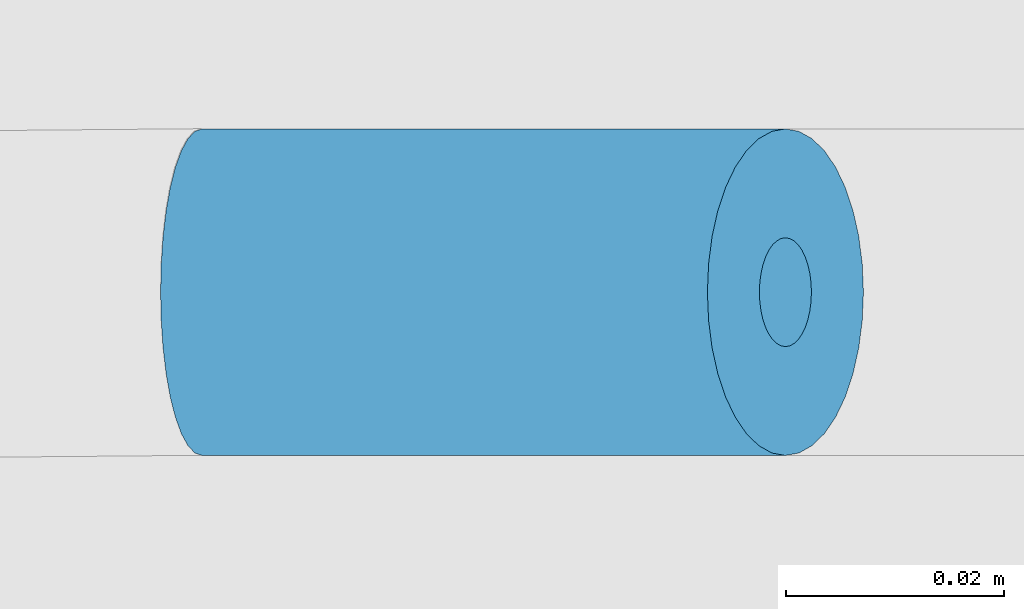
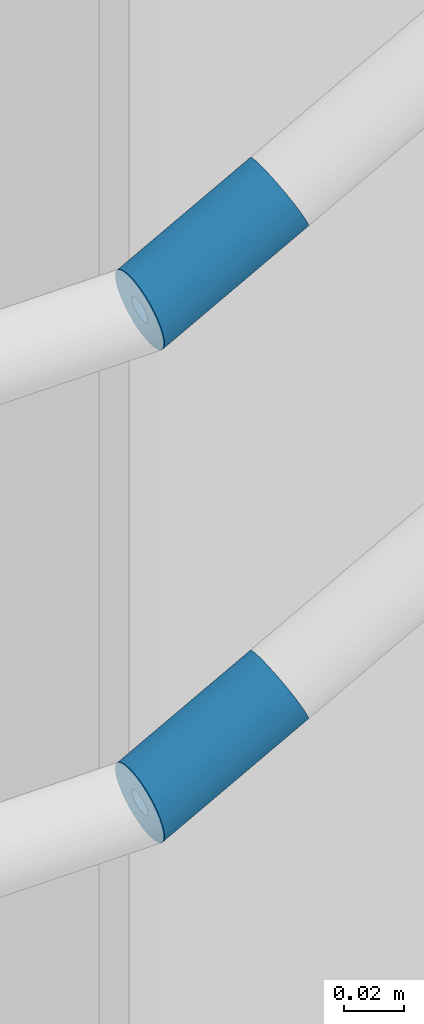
# One storey, part 230 of 301: 2 building element parts, 1 element without a shape of its own.
"""IFC2X3 building model written with IfcOpenShell, lengths in millimetres."""

from ifc_helpers import new_model, entity, si_unit, converted_unit, derived_unit, money_unit, direction, frame, origin_with_axes, place, context, subcontext, project, spatial, faceted_brep, material, type_object, element, aggregate, save


model = new_model("IFC2X3")

# Units and contexts
model_context = context("Model", 3, precision=0.01, world=origin_with_axes(), true_north=direction((0.0, 1.0)))
body_context = subcontext(model_context, "Body", "Model", "MODEL_VIEW")
ifc_project = project(units=[si_unit("LENGTHUNIT", "METRE", prefix="MILLI"), si_unit("AREAUNIT", "SQUARE_METRE"), si_unit("VOLUMEUNIT", "CUBIC_METRE"), converted_unit("PLANEANGLEUNIT", "DEGREE", entity("IfcPlaneAngleMeasure", 0.0174532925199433), si_unit("PLANEANGLEUNIT", "RADIAN"), dimensions=[0, 0, 0, 0, 0, 0, 0]), money_unit("EUR"), converted_unit("TIMEUNIT", "Year", entity("IfcTimeMeasure", 31557600.0), si_unit("TIMEUNIT", "SECOND"), dimensions=[0, 0, 1, 0, 0, 0, 0]), si_unit("MASSUNIT", "GRAM", prefix="KILO"), si_unit("THERMODYNAMICTEMPERATUREUNIT", "DEGREE_CELSIUS"), si_unit("LUMINOUSINTENSITYUNIT", "LUMEN"), si_unit("ENERGYUNIT", "JOULE", prefix="MEGA"), derived_unit("THERMALCONDUCTANCEUNIT", [(si_unit("POWERUNIT", "WATT"), 1), (si_unit("LENGTHUNIT", "METRE"), -1), (si_unit("THERMODYNAMICTEMPERATUREUNIT", "KELVIN"), -1)]), derived_unit("SPECIFICHEATCAPACITYUNIT", [(si_unit("ENERGYUNIT", "JOULE"), 1), (si_unit("MASSUNIT", "GRAM", prefix="KILO"), -1), (si_unit("THERMODYNAMICTEMPERATUREUNIT", "KELVIN"), -1)]), derived_unit("MASSDENSITYUNIT", [(si_unit("MASSUNIT", "GRAM", prefix="KILO"), 1), (si_unit("VOLUMEUNIT", "CUBIC_METRE"), -1)])], contexts=[model_context])

# Site, building, storey
site_placement = place(None, frame((0.0, 0.0, 8650.0), z_axis=(0.0, 0.0, 1.0), x_axis=(1.0, 0.0, 0.0)))
site = spatial("IfcSite", under=ifc_project, at=site_placement, Name="43301:001:0844", CompositionType="ELEMENT")
building_placement = place(site_placement, origin_with_axes())
building = spatial("IfcBuilding", under=site, at=building_placement, Name="Kuressaare Ametikooli tuulikute mehaanikute õppekorpus", CompositionType="ELEMENT")
storey_placement = place(building_placement, origin_with_axes())
storey = spatial("IfcBuildingStorey", under=building, at=storey_placement, Name="1.korrus", CompositionType="ELEMENT", Elevation=0.0)

# Railing, building element parts
railing_type = type_object("IfcRailingType", Name="Railing Type", PredefinedType="NOTDEFINED")
railing_placement = place(storey_placement, frame((107882.9493746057, 28359.57374875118, 157.6923606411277), z_axis=(0.0, 0.0, 1.0), x_axis=(1.0, 0.0, 0.0)))
railing = element("IfcRailing", 1, at=railing_placement, inside=storey, type_object=railing_type, Name="Piire", PredefinedType="NOTDEFINED")
ifc_material = material(Name="Metall - Teras - Roostevaba")
building_element_part_1_placement = place(railing_placement, origin_with_axes())
building_element_part_1 = element("IfcBuildingElementPart", 2, at=building_element_part_1_placement, material=ifc_material, Name="Metall - Teras - Roostevaba", context=body_context, shape_type="Brep", body=[
    faceted_brep([(3721.130413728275, -54.92403876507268, 2607.204034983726), (3721.545180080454, -55.00000000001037, 2606.441269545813), (3667.967820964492, -55.00000000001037, 2577.30769230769), (3667.747026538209, -54.92403876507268, 2578.175933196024), (3720.300881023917, -64.7721162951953, 2608.729565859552), (3721.545180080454, -65.00000000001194, 2606.441269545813), (3722.789479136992, -64.7721162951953, 2604.152973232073), (3723.995970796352, -64.09538931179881, 2601.934205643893), (3725.127996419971, -62.99038105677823, 2599.852382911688), (3726.151159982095, -61.49066664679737, 2597.970760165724), (3727.034373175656, -59.64181414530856, 2596.346509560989), (3727.750800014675, -57.50000000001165, 2595.028983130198), (3728.278672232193, -55.13030214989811, 2594.05821324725), (3728.601950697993, -52.60472266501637, 2593.463696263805), (3728.710812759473, -50.00000000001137, 2593.263496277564), (3728.601950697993, -47.39527733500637, 2593.463696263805), (3728.278672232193, -44.86969785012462, 2594.05821324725), (3727.750800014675, -42.50000000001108, 2595.028983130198), (3727.034373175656, -40.35818585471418, 2596.346509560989), (3726.151159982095, -38.50933335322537, 2597.970760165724), (3725.127996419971, -37.0096189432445, 2599.852382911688), (3723.995970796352, -35.90461068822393, 2601.934205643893), (3722.789479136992, -35.22788370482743, 2604.152973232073), (3721.545180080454, -35.0000000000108, 2606.441269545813), (3720.300881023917, -35.22788370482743, 2608.729565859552), (3719.094389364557, -35.90461068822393, 2610.948333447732), (3717.962363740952, -37.0096189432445, 2613.030156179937), (3716.939200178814, -38.50933335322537, 2614.911778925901), (3716.055986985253, -40.35818585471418, 2616.536029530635), (3715.339560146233, -42.50000000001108, 2617.853555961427), (3714.811687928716, -44.86969785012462, 2618.824325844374), (3714.488409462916, -47.39527733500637, 2619.41884282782), (3714.379547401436, -50.00000000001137, 2619.61904281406), (3714.488409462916, -52.60472266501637, 2619.41884282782), (3714.811687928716, -55.13030214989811, 2618.824325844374), (3715.339560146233, -57.50000000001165, 2617.853555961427), (3716.055986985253, -59.64181414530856, 2616.536029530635), (3716.939200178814, -61.49066664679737, 2614.911778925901), (3717.962363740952, -62.99038105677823, 2613.030156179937), (3719.094389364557, -64.09538931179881, 2610.948333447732), (3721.959946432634, -54.92403876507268, 2605.6785041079), (3720.728249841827, -54.69846310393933, 2607.943624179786), (3720.350907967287, -54.33012701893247, 2608.637565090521), (3720.00985344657, -53.83022221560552, 2609.264772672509), (3719.715449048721, -53.21393804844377, 2609.806189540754), (3719.476640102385, -52.50000000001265, 2610.245365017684), (3719.300682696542, -51.71010071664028, 2610.568954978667), (3719.192923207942, -50.86824088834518, 2610.767127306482), (3719.156635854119, -50.00000000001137, 2610.833860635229), (3719.192923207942, -49.13175911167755, 2610.767127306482), (3719.300682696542, -48.28989928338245, 2610.568954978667), (3719.476640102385, -47.50000000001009, 2610.245365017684), (3719.715449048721, -46.78606195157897, 2609.806189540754), (3720.00985344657, -46.16977778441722, 2609.264772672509), (3720.350907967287, -45.66987298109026, 2608.637565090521), (3720.728249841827, -45.30153689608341, 2607.943624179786), (3721.130413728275, -45.07596123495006, 2607.204034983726), (3721.545180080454, -45.00000000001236, 2606.441269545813), (3721.959946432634, -45.07596123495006, 2605.6785041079), (3722.362110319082, -45.30153689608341, 2604.938914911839), (3722.739452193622, -45.66987298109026, 2604.244974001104), (3723.080506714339, -46.16977778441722, 2603.617766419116), (3723.374911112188, -46.78606195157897, 2603.076349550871), (3723.613720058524, -47.50000000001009, 2602.637174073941), (3723.789677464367, -48.28989928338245, 2602.313584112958), (3723.897436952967, -49.13175911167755, 2602.115411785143), (3723.933724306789, -50.00000000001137, 2602.048678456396), (3723.897436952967, -50.86824088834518, 2602.115411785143), (3723.789677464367, -51.71010071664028, 2602.313584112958), (3723.613720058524, -52.50000000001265, 2602.637174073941), (3723.374911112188, -53.21393804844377, 2603.076349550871), (3723.080506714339, -53.83022221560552, 2603.617766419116), (3722.739452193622, -54.33012701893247, 2604.244974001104), (3722.362110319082, -54.69846310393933, 2604.938914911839), (3668.188615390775, -54.92403876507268, 2576.439451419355), (3666.060564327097, -37.0096189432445, 2584.80769230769), (3666.663180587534, -35.90461068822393, 2582.437994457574), (3667.305437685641, -35.22788370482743, 2579.912414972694), (3667.967820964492, -35.0000000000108, 2577.30769230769), (3668.630204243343, -35.22788370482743, 2574.702969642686), (3669.27246134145, -35.90461068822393, 2572.177390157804), (3669.875077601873, -37.0096189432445, 2569.80769230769), (3670.419742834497, -38.50933335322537, 2567.665878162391), (3670.889907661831, -40.35818585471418, 2565.817025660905), (3671.271286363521, -42.50000000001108, 2564.317311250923), (3671.552290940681, -44.86969785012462, 2563.212302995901), (3671.724383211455, -47.39527733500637, 2562.535576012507), (3671.782334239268, -50.00000000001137, 2562.30769230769), (3671.724383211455, -52.60472266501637, 2562.535576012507), (3671.552290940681, -55.13030214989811, 2563.212302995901), (3671.271286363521, -57.50000000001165, 2564.317311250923), (3670.889907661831, -59.64181414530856, 2565.817025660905), (3670.419742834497, -61.49066664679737, 2567.665878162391), (3669.875077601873, -62.99038105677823, 2569.80769230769), (3669.27246134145, -64.09538931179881, 2572.177390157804), (3668.630204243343, -64.7721162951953, 2574.702969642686), (3667.967820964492, -65.00000000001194, 2577.30769230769), (3667.305437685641, -64.7721162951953, 2579.912414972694), (3666.663180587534, -64.09538931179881, 2582.437994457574), (3666.060564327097, -62.99038105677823, 2584.80769230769), (3665.515899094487, -61.49066664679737, 2586.949506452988), (3665.045734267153, -59.64181414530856, 2588.798358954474), (3664.664355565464, -57.50000000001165, 2590.298073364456), (3664.383350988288, -55.13030214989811, 2591.403081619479), (3664.211258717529, -52.60472266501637, 2592.079808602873), (3664.153307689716, -50.00000000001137, 2592.30769230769), (3664.211258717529, -47.39527733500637, 2592.079808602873), (3664.383350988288, -44.86969785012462, 2591.403081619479), (3664.664355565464, -42.50000000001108, 2590.298073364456), (3665.045734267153, -40.35818585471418, 2588.798358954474), (3665.515899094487, -38.50933335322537, 2586.949506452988), (3668.603573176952, -45.66987298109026, 2574.80769230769), (3668.402701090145, -45.30153689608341, 2575.597591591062), (3668.188615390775, -45.07596123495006, 2576.439451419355), (3667.967820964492, -45.00000000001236, 2577.30769230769), (3667.747026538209, -45.07596123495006, 2578.175933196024), (3667.532940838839, -45.30153689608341, 2579.017793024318), (3667.332068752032, -45.66987298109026, 2579.80769230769), (3667.150513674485, -46.16977778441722, 2580.521630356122), (3666.993792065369, -46.78606195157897, 2581.137914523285), (3666.866665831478, -47.50000000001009, 2581.637819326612), (3666.772997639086, -48.28989928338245, 2582.006155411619), (3666.715633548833, -49.13175911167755, 2582.231731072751), (3666.696316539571, -50.00000000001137, 2582.30769230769), (3666.715633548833, -50.86824088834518, 2582.231731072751), (3666.772997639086, -51.71010071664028, 2582.006155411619), (3666.866665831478, -52.50000000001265, 2581.637819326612), (3666.993792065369, -53.21393804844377, 2581.137914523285), (3667.150513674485, -53.83022221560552, 2580.521630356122), (3667.332068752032, -54.33012701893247, 2579.80769230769), (3667.532940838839, -54.69846310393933, 2579.017793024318), (3668.402701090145, -54.69846310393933, 2575.597591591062), (3668.603573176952, -54.33012701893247, 2574.80769230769), (3668.785128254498, -53.83022221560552, 2574.093754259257), (3668.9418498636, -53.21393804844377, 2573.477470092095), (3669.068976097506, -52.50000000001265, 2572.977565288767), (3669.162644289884, -51.71010071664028, 2572.60922920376), (3669.220008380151, -50.86824088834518, 2572.383653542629), (3669.239325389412, -50.00000000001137, 2572.30769230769), (3669.220008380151, -49.13175911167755, 2572.383653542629), (3669.162644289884, -48.28989928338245, 2572.60922920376), (3669.068976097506, -47.50000000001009, 2572.977565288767), (3668.9418498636, -46.78606195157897, 2573.477470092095), (3668.785128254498, -46.16977778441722, 2574.093754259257)], [[[0, 1, 2, 3]], [[4, 5, 6, 7, 8, 9, 10, 11, 12, 13, 14, 15, 16, 17, 18, 19, 20, 21, 22, 23, 24, 25, 26, 27, 28, 29, 30, 31, 32, 33, 34, 35, 36, 37, 38, 39], [40, 1, 0, 41, 42, 43, 44, 45, 46, 47, 48, 49, 50, 51, 52, 53, 54, 55, 56, 57, 58, 59, 60, 61, 62, 63, 64, 65, 66, 67, 68, 69, 70, 71, 72, 73]], [[1, 40, 74, 2]], [[75, 76, 77, 78, 79, 80, 81, 82, 83, 84, 85, 86, 87, 88, 89, 90, 91, 92, 93, 94, 95, 96, 97, 98, 99, 100, 101, 102, 103, 104, 105, 106, 107, 108, 109, 110], [111, 112, 113, 114, 115, 116, 117, 118, 119, 120, 121, 122, 123, 124, 125, 126, 127, 128, 129, 130, 3, 2, 74, 131, 132, 133, 134, 135, 136, 137, 138, 139, 140, 141, 142, 143]], [[41, 0, 3, 130]], [[5, 4, 97, 96]], [[6, 5, 96, 95]], [[7, 6, 95, 94]], [[8, 7, 94, 93]], [[9, 8, 93, 92]], [[10, 9, 92, 91]], [[11, 10, 91, 90]], [[12, 11, 90, 89]], [[13, 12, 89, 88]], [[14, 13, 88, 87]], [[15, 14, 87, 86]], [[16, 15, 86, 85]], [[17, 16, 85, 84]], [[18, 17, 84, 83]], [[19, 18, 83, 82]], [[20, 19, 82, 81]], [[21, 20, 81, 80]], [[22, 21, 80, 79]], [[23, 22, 79, 78]], [[24, 23, 78, 77]], [[25, 24, 77, 76]], [[26, 25, 76, 75]], [[27, 26, 75, 110]], [[28, 27, 110, 109]], [[29, 28, 109, 108]], [[30, 29, 108, 107]], [[31, 30, 107, 106]], [[32, 31, 106, 105]], [[33, 32, 105, 104]], [[34, 33, 104, 103]], [[35, 34, 103, 102]], [[36, 35, 102, 101]], [[37, 36, 101, 100]], [[38, 37, 100, 99]], [[39, 38, 99, 98]], [[4, 39, 98, 97]], [[42, 41, 130, 129]], [[43, 42, 129, 128]], [[44, 43, 128, 127]], [[45, 44, 127, 126]], [[46, 45, 126, 125]], [[47, 46, 125, 124]], [[48, 47, 124, 123]], [[49, 48, 123, 122]], [[50, 49, 122, 121]], [[51, 50, 121, 120]], [[52, 51, 120, 119]], [[53, 52, 119, 118]], [[54, 53, 118, 117]], [[55, 54, 117, 116]], [[56, 55, 116, 115]], [[57, 56, 115, 114]], [[58, 57, 114, 113]], [[59, 58, 113, 112]], [[60, 59, 112, 111]], [[61, 60, 111, 143]], [[62, 61, 143, 142]], [[63, 62, 142, 141]], [[64, 63, 141, 140]], [[65, 64, 140, 139]], [[66, 65, 139, 138]], [[67, 66, 138, 137]], [[68, 67, 137, 136]], [[69, 68, 136, 135]], [[70, 69, 135, 134]], [[71, 70, 134, 133]], [[72, 71, 133, 132]], [[73, 72, 132, 131]], [[40, 73, 131, 74]]]),
])
building_element_part_2_placement = place(railing_placement, origin_with_axes())
building_element_part_2 = element("IfcBuildingElementPart", 3, at=building_element_part_2_placement, material=ifc_material, Name="Metall - Teras - Roostevaba", context=body_context, shape_type="Brep", body=[
    faceted_brep([(3721.130413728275, -54.92403876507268, 2807.204034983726), (3721.545180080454, -55.00000000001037, 2806.441269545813), (3667.967820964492, -55.00000000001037, 2777.30769230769), (3667.747026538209, -54.92403876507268, 2778.175933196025), (3720.300881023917, -64.7721162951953, 2808.729565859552), (3721.545180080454, -65.00000000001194, 2806.441269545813), (3722.789479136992, -64.7721162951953, 2804.152973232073), (3723.995970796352, -64.09538931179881, 2801.934205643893), (3725.127996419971, -62.99038105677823, 2799.852382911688), (3726.151159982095, -61.49066664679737, 2797.970760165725), (3727.034373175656, -59.64181414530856, 2796.346509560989), (3727.750800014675, -57.50000000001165, 2795.028983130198), (3728.278672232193, -55.13030214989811, 2794.05821324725), (3728.601950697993, -52.60472266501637, 2793.463696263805), (3728.710812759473, -50.00000000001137, 2793.263496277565), (3728.601950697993, -47.39527733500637, 2793.463696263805), (3728.278672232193, -44.86969785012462, 2794.05821324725), (3727.750800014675, -42.50000000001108, 2795.028983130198), (3727.034373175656, -40.35818585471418, 2796.346509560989), (3726.151159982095, -38.50933335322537, 2797.970760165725), (3725.127996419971, -37.0096189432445, 2799.852382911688), (3723.995970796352, -35.90461068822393, 2801.934205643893), (3722.789479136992, -35.22788370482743, 2804.152973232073), (3721.545180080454, -35.0000000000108, 2806.441269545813), (3720.300881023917, -35.22788370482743, 2808.729565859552), (3719.094389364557, -35.90461068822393, 2810.948333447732), (3717.962363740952, -37.0096189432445, 2813.030156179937), (3716.939200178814, -38.50933335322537, 2814.911778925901), (3716.055986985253, -40.35818585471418, 2816.536029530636), (3715.339560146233, -42.50000000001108, 2817.853555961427), (3714.811687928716, -44.86969785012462, 2818.824325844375), (3714.488409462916, -47.39527733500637, 2819.41884282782), (3714.379547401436, -50.00000000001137, 2819.619042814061), (3714.488409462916, -52.60472266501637, 2819.41884282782), (3714.811687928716, -55.13030214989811, 2818.824325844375), (3715.339560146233, -57.50000000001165, 2817.853555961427), (3716.055986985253, -59.64181414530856, 2816.536029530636), (3716.939200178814, -61.49066664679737, 2814.911778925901), (3717.962363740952, -62.99038105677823, 2813.030156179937), (3719.094389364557, -64.09538931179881, 2810.948333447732), (3721.959946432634, -54.92403876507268, 2805.6785041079), (3720.728249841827, -54.69846310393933, 2807.943624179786), (3720.350907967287, -54.33012701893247, 2808.637565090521), (3720.00985344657, -53.83022221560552, 2809.264772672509), (3719.715449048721, -53.21393804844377, 2809.806189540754), (3719.476640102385, -52.50000000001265, 2810.245365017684), (3719.300682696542, -51.71010071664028, 2810.568954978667), (3719.192923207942, -50.86824088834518, 2810.767127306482), (3719.156635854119, -50.00000000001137, 2810.833860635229), (3719.192923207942, -49.13175911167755, 2810.767127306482), (3719.300682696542, -48.28989928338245, 2810.568954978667), (3719.476640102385, -47.50000000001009, 2810.245365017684), (3719.715449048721, -46.78606195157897, 2809.806189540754), (3720.00985344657, -46.16977778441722, 2809.264772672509), (3720.350907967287, -45.66987298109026, 2808.637565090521), (3720.728249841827, -45.30153689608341, 2807.943624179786), (3721.130413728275, -45.07596123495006, 2807.204034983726), (3721.545180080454, -45.00000000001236, 2806.441269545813), (3721.959946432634, -45.07596123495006, 2805.6785041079), (3722.362110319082, -45.30153689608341, 2804.93891491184), (3722.739452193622, -45.66987298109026, 2804.244974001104), (3723.080506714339, -46.16977778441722, 2803.617766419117), (3723.374911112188, -46.78606195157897, 2803.076349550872), (3723.613720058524, -47.50000000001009, 2802.637174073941), (3723.789677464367, -48.28989928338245, 2802.313584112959), (3723.897436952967, -49.13175911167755, 2802.115411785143), (3723.933724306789, -50.00000000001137, 2802.048678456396), (3723.897436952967, -50.86824088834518, 2802.115411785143), (3723.789677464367, -51.71010071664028, 2802.313584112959), (3723.613720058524, -52.50000000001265, 2802.637174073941), (3723.374911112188, -53.21393804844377, 2803.076349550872), (3723.080506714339, -53.83022221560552, 2803.617766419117), (3722.739452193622, -54.33012701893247, 2804.244974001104), (3722.362110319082, -54.69846310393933, 2804.93891491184), (3668.188615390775, -54.92403876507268, 2776.439451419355), (3666.060564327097, -37.0096189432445, 2784.80769230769), (3666.663180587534, -35.90461068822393, 2782.437994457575), (3667.305437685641, -35.22788370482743, 2779.912414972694), (3667.967820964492, -35.0000000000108, 2777.30769230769), (3668.630204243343, -35.22788370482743, 2774.702969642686), (3669.27246134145, -35.90461068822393, 2772.177390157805), (3669.875077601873, -37.0096189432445, 2769.80769230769), (3670.419742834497, -38.50933335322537, 2767.665878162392), (3670.889907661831, -40.35818585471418, 2765.817025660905), (3671.271286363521, -42.50000000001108, 2764.317311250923), (3671.552290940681, -44.86969785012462, 2763.212302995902), (3671.724383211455, -47.39527733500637, 2762.535576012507), (3671.782334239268, -50.00000000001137, 2762.30769230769), (3671.724383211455, -52.60472266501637, 2762.535576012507), (3671.552290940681, -55.13030214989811, 2763.212302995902), (3671.271286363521, -57.50000000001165, 2764.317311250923), (3670.889907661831, -59.64181414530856, 2765.817025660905), (3670.419742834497, -61.49066664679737, 2767.665878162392), (3669.875077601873, -62.99038105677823, 2769.80769230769), (3669.27246134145, -64.09538931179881, 2772.177390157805), (3668.630204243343, -64.7721162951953, 2774.702969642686), (3667.967820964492, -65.00000000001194, 2777.30769230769), (3667.305437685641, -64.7721162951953, 2779.912414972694), (3666.663180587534, -64.09538931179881, 2782.437994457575), (3666.060564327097, -62.99038105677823, 2784.80769230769), (3665.515899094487, -61.49066664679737, 2786.949506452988), (3665.045734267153, -59.64181414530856, 2788.798358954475), (3664.664355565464, -57.50000000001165, 2790.298073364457), (3664.383350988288, -55.13030214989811, 2791.403081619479), (3664.211258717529, -52.60472266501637, 2792.079808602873), (3664.153307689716, -50.00000000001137, 2792.30769230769), (3664.211258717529, -47.39527733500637, 2792.079808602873), (3664.383350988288, -44.86969785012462, 2791.403081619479), (3664.664355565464, -42.50000000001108, 2790.298073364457), (3665.045734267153, -40.35818585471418, 2788.798358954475), (3665.515899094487, -38.50933335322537, 2786.949506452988), (3668.603573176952, -45.66987298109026, 2774.80769230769), (3668.402701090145, -45.30153689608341, 2775.597591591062), (3668.188615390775, -45.07596123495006, 2776.439451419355), (3667.967820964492, -45.00000000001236, 2777.30769230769), (3667.747026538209, -45.07596123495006, 2778.175933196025), (3667.532940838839, -45.30153689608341, 2779.017793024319), (3667.332068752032, -45.66987298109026, 2779.80769230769), (3667.150513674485, -46.16977778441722, 2780.521630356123), (3666.993792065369, -46.78606195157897, 2781.137914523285), (3666.866665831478, -47.50000000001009, 2781.637819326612), (3666.772997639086, -48.28989928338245, 2782.00615541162), (3666.715633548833, -49.13175911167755, 2782.231731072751), (3666.696316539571, -50.00000000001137, 2782.30769230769), (3666.715633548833, -50.86824088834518, 2782.231731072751), (3666.772997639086, -51.71010071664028, 2782.00615541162), (3666.866665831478, -52.50000000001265, 2781.637819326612), (3666.993792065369, -53.21393804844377, 2781.137914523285), (3667.150513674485, -53.83022221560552, 2780.521630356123), (3667.332068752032, -54.33012701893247, 2779.80769230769), (3667.532940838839, -54.69846310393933, 2779.017793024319), (3668.402701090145, -54.69846310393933, 2775.597591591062), (3668.603573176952, -54.33012701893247, 2774.80769230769), (3668.785128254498, -53.83022221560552, 2774.093754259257), (3668.9418498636, -53.21393804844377, 2773.477470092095), (3669.068976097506, -52.50000000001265, 2772.977565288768), (3669.162644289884, -51.71010071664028, 2772.609229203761), (3669.220008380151, -50.86824088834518, 2772.383653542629), (3669.239325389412, -50.00000000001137, 2772.30769230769), (3669.220008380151, -49.13175911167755, 2772.383653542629), (3669.162644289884, -48.28989928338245, 2772.609229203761), (3669.068976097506, -47.50000000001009, 2772.977565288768), (3668.9418498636, -46.78606195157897, 2773.477470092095), (3668.785128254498, -46.16977778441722, 2774.093754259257)], [[[0, 1, 2, 3]], [[4, 5, 6, 7, 8, 9, 10, 11, 12, 13, 14, 15, 16, 17, 18, 19, 20, 21, 22, 23, 24, 25, 26, 27, 28, 29, 30, 31, 32, 33, 34, 35, 36, 37, 38, 39], [40, 1, 0, 41, 42, 43, 44, 45, 46, 47, 48, 49, 50, 51, 52, 53, 54, 55, 56, 57, 58, 59, 60, 61, 62, 63, 64, 65, 66, 67, 68, 69, 70, 71, 72, 73]], [[1, 40, 74, 2]], [[75, 76, 77, 78, 79, 80, 81, 82, 83, 84, 85, 86, 87, 88, 89, 90, 91, 92, 93, 94, 95, 96, 97, 98, 99, 100, 101, 102, 103, 104, 105, 106, 107, 108, 109, 110], [111, 112, 113, 114, 115, 116, 117, 118, 119, 120, 121, 122, 123, 124, 125, 126, 127, 128, 129, 130, 3, 2, 74, 131, 132, 133, 134, 135, 136, 137, 138, 139, 140, 141, 142, 143]], [[41, 0, 3, 130]], [[5, 4, 97, 96]], [[6, 5, 96, 95]], [[7, 6, 95, 94]], [[8, 7, 94, 93]], [[9, 8, 93, 92]], [[10, 9, 92, 91]], [[11, 10, 91, 90]], [[12, 11, 90, 89]], [[13, 12, 89, 88]], [[14, 13, 88, 87]], [[15, 14, 87, 86]], [[16, 15, 86, 85]], [[17, 16, 85, 84]], [[18, 17, 84, 83]], [[19, 18, 83, 82]], [[20, 19, 82, 81]], [[21, 20, 81, 80]], [[22, 21, 80, 79]], [[23, 22, 79, 78]], [[24, 23, 78, 77]], [[25, 24, 77, 76]], [[26, 25, 76, 75]], [[27, 26, 75, 110]], [[28, 27, 110, 109]], [[29, 28, 109, 108]], [[30, 29, 108, 107]], [[31, 30, 107, 106]], [[32, 31, 106, 105]], [[33, 32, 105, 104]], [[34, 33, 104, 103]], [[35, 34, 103, 102]], [[36, 35, 102, 101]], [[37, 36, 101, 100]], [[38, 37, 100, 99]], [[39, 38, 99, 98]], [[4, 39, 98, 97]], [[42, 41, 130, 129]], [[43, 42, 129, 128]], [[44, 43, 128, 127]], [[45, 44, 127, 126]], [[46, 45, 126, 125]], [[47, 46, 125, 124]], [[48, 47, 124, 123]], [[49, 48, 123, 122]], [[50, 49, 122, 121]], [[51, 50, 121, 120]], [[52, 51, 120, 119]], [[53, 52, 119, 118]], [[54, 53, 118, 117]], [[55, 54, 117, 116]], [[56, 55, 116, 115]], [[57, 56, 115, 114]], [[58, 57, 114, 113]], [[59, 58, 113, 112]], [[60, 59, 112, 111]], [[61, 60, 111, 143]], [[62, 61, 143, 142]], [[63, 62, 142, 141]], [[64, 63, 141, 140]], [[65, 64, 140, 139]], [[66, 65, 139, 138]], [[67, 66, 138, 137]], [[68, 67, 137, 136]], [[69, 68, 136, 135]], [[70, 69, 135, 134]], [[71, 70, 134, 133]], [[72, 71, 133, 132]], [[73, 72, 132, 131]], [[40, 73, 131, 74]]]),
])
aggregate(railing, [building_element_part_1, building_element_part_2])

save(model, "model.ifc")
